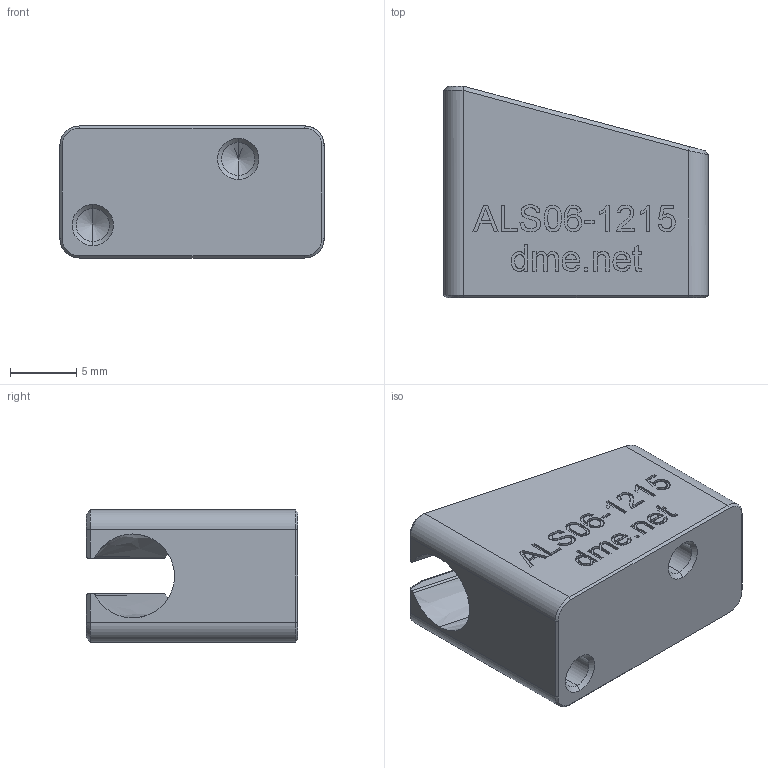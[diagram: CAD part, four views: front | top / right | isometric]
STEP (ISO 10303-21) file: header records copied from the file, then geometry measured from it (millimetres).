
FILE_DESCRIPTION (( 'STEP AP203' ), '1' );
FILE_NAME ('ALS06-1215.STEP', '2021-01-08T20:44:05', ( '' ), ( '' ), 'SwSTEP 2.0', 'SolidWorks 2020', '' );
FILE_SCHEMA (( 'CONFIG_CONTROL_DESIGN' ));
Length unit declared in the file: millimetre
Products named in the file (1): ALS06-1215
Bounding box: 20 x 16 x 10 mm (x, y, z)
Volume: 1979.8 mm3; surface area: 1532 mm2
Topology: 1 solids, 1 shells, 276 faces, 727 edges, 474 vertices
Faces by surface type: plane 135, bspline 113, cone 14, cylinder 14
Entity records: 14414 total; most frequent: CARTESIAN_POINT 8347, ORIENTED_EDGE 1446, DIRECTION 833, EDGE_CURVE 723, VERTEX_POINT 474, LINE 457, VECTOR 457, EDGE_LOOP 301
